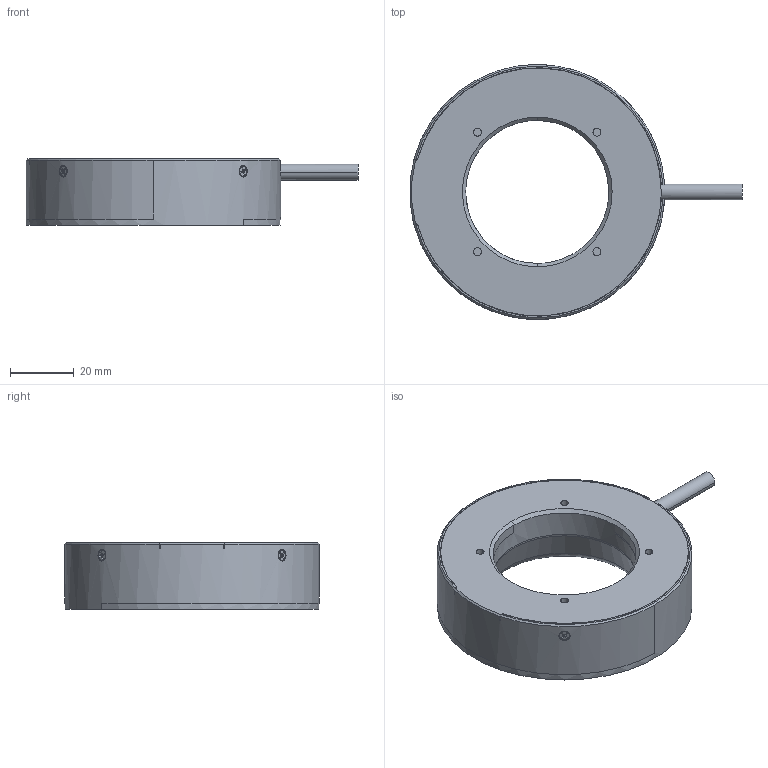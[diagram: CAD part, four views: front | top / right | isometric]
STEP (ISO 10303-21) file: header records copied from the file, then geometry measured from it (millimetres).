
FILE_DESCRIPTION((''),'2;1');
FILE_NAME('MV-LRDS-H-80-15-W','2022-09-02T14:30:05',('qiaoxuan5'),(''),'CREO PARAMETRIC BY PTC INC, 2020044','CREO PARAMETRIC BY PTC INC, 2020044','');
FILE_SCHEMA(('CONFIG_CONTROL_DESIGN'));
Length unit declared in the file: metre
Products named in the file (1): MV-LRDS-H-80-15-W
Bounding box: 104.19 x 80 x 21 mm (x, y, z)
Volume: 69236 mm3; surface area: 17551.3 mm2
Topology: 1 solids, 13 shells, 463 faces, 1152 edges, 708 vertices
Faces by surface type: plane 273, cylinder 122, cone 64, torus 4
Entity records: 14166 total; most frequent: CARTESIAN_POINT 3163, ORIENTED_EDGE 2280, DIRECTION 2264, EDGE_CURVE 1140, AXIS2_PLACEMENT_3D 769, VECTOR 726, LINE 726, VERTEX_POINT 708
